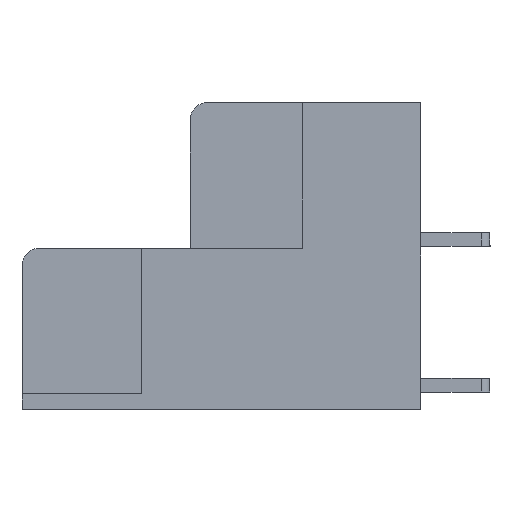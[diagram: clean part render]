
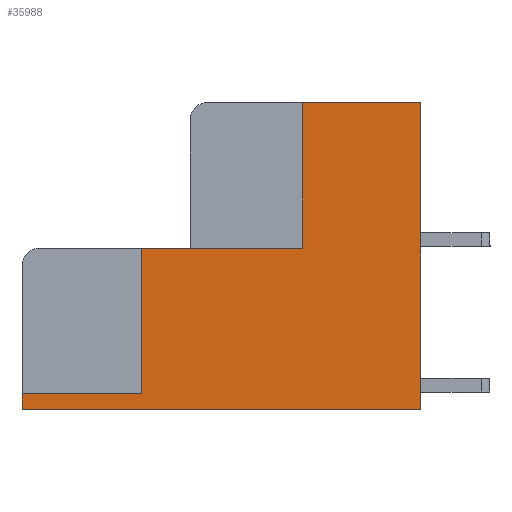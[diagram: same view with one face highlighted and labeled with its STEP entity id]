
A CAD part, left-side view. The second image highlights one B-rep face of the part: STEP entity #35988.
In plain terms, the highlighted planar face has unit normal (-1, 0, 0).
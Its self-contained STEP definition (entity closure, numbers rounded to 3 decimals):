
#2058=VERTEX_POINT('',#48047);
#2059=VERTEX_POINT('',#48049);
#2061=VERTEX_POINT('',#48055);
#2066=VERTEX_POINT('',#48068);
#2067=VERTEX_POINT('',#48070);
#2068=VERTEX_POINT('',#48075);
#2069=VERTEX_POINT('',#48077);
#2070=VERTEX_POINT('',#48079);
#5684=VECTOR('',#40760,1.);
#5688=VECTOR('',#40765,1.);
#5693=VECTOR('',#40774,1.);
#5695=VECTOR('',#40777,1.);
#5696=VECTOR('',#40778,1.);
#5697=VECTOR('',#40779,1.);
#5698=VECTOR('',#40780,1.);
#5699=VECTOR('',#40781,1.);
#9700=LINE('',#48048,#5684);
#9704=LINE('',#48056,#5688);
#9709=LINE('',#48069,#5693);
#9711=LINE('',#48073,#5695);
#9712=LINE('',#48074,#5696);
#9713=LINE('',#48076,#5697);
#9714=LINE('',#48078,#5698);
#9715=LINE('',#48080,#5699);
#13688=EDGE_CURVE('',#2058,#2059,#9700,.T.);
#13692=EDGE_CURVE('',#2061,#2058,#9704,.T.);
#13698=EDGE_CURVE('',#2066,#2067,#9709,.T.);
#13700=EDGE_CURVE('',#2059,#2066,#9711,.T.);
#13701=EDGE_CURVE('',#2068,#2061,#9712,.T.);
#13702=EDGE_CURVE('',#2069,#2068,#9713,.T.);
#13703=EDGE_CURVE('',#2070,#2069,#9714,.T.);
#13704=EDGE_CURVE('',#2067,#2070,#9715,.T.);
#19401=ORIENTED_EDGE('',*,*,#13698,.F.);
#19402=ORIENTED_EDGE('',*,*,#13700,.F.);
#19403=ORIENTED_EDGE('',*,*,#13688,.F.);
#19404=ORIENTED_EDGE('',*,*,#13692,.F.);
#19405=ORIENTED_EDGE('',*,*,#13701,.F.);
#19406=ORIENTED_EDGE('',*,*,#13702,.F.);
#19407=ORIENTED_EDGE('',*,*,#13703,.F.);
#19408=ORIENTED_EDGE('',*,*,#13704,.F.);
#30784=EDGE_LOOP('',(#19401,#19402,#19403,#19404,#19405,#19406,#19407,#19408));
#33386=FACE_BOUND('',#30784,.T.);
#35988=ADVANCED_FACE('',(#33386),#71739,.F.);
#38339=AXIS2_PLACEMENT_3D('',#48072,#40776,$);
#40760=DIRECTION('',(0.,0.,1.));
#40765=DIRECTION('',(0.,-1.,0.));
#40774=DIRECTION('',(0.,0.,1.));
#40776=DIRECTION('',(1.,0.,0.));
#40777=DIRECTION('',(0.,-1.,0.));
#40778=DIRECTION('',(0.,0.,1.));
#40779=DIRECTION('',(0.,1.,0.));
#40780=DIRECTION('',(0.,0.,-1.));
#40781=DIRECTION('',(0.,-1.,0.));
#48047=CARTESIAN_POINT('',(0.,16.1,0.9));
#48048=CARTESIAN_POINT('',(0.,16.1,0.9));
#48049=CARTESIAN_POINT('',(0.,16.1,9.3));
#48055=CARTESIAN_POINT('',(0.,23.,0.9));
#48056=CARTESIAN_POINT('',(0.,23.,0.9));
#48068=CARTESIAN_POINT('',(0.,6.8,9.3));
#48069=CARTESIAN_POINT('',(0.,6.8,9.3));
#48070=CARTESIAN_POINT('',(0.,6.8,17.7));
#48072=CARTESIAN_POINT('',(0.,3.4,13.5));
#48073=CARTESIAN_POINT('',(0.,16.1,9.3));
#48074=CARTESIAN_POINT('',(0.,23.,0.));
#48075=CARTESIAN_POINT('',(0.,23.,0.));
#48076=CARTESIAN_POINT('',(0.,0.,0.));
#48077=CARTESIAN_POINT('',(0.,0.,0.));
#48078=CARTESIAN_POINT('',(0.,0.,17.7));
#48079=CARTESIAN_POINT('',(0.,0.,17.7));
#48080=CARTESIAN_POINT('',(0.,6.8,17.7));
#71739=PLANE('',#38339);
